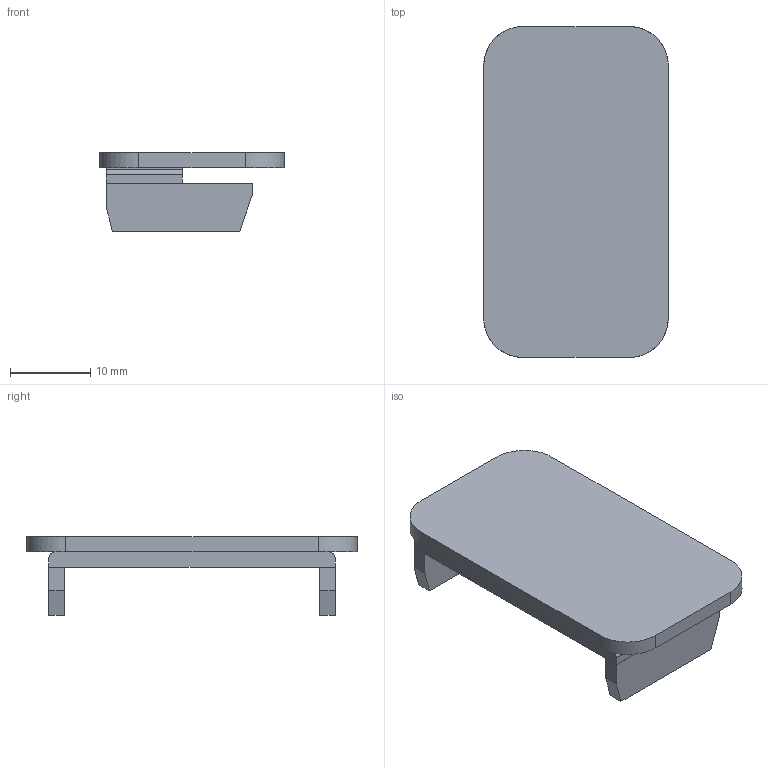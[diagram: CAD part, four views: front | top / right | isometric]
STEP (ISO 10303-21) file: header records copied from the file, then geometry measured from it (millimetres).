
FILE_DESCRIPTION(('TurboCAD Mac Pro'),'Build 980');
FILE_NAME('P4280W.stp',' ',(''),(''),'ACIS Interop','IMSI','TurboCAD Mac Pro BY IMSI, INCORPORATED');
FILE_SCHEMA(('automotive_design'));
Length unit declared in the file: inch
Products named in the file (3): 1; 2; 3
Bounding box: 23.01 x 41.27 x 9.85 mm (x, y, z)
Volume: 2816.3 mm3; surface area: 2885 mm2
Topology: 3 solids, 3 shells, 35 faces, 84 edges, 56 vertices
Faces by surface type: plane 27, cylinder 4, bspline 4
Entity records: 1380 total; most frequent: CARTESIAN_POINT 230, ORIENTED_EDGE 168, DIRECTION 152, EDGE_CURVE 84, LINE 68, VECTOR 68, VERTEX_POINT 56, AXIS2_PLACEMENT_3D 42
